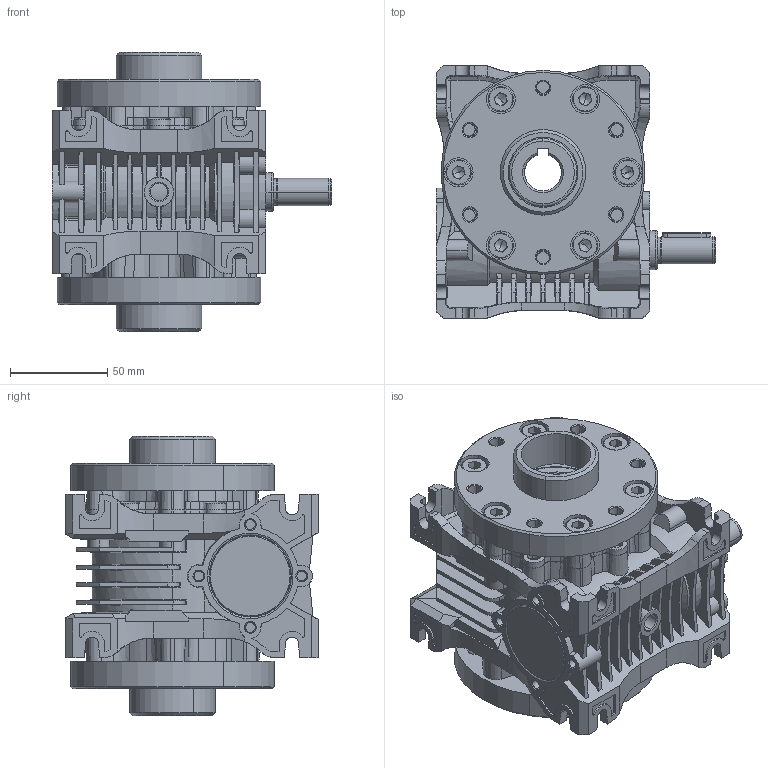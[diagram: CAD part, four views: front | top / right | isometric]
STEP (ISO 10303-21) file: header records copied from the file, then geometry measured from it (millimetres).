
FILE_DESCRIPTION (( 'STEP AP203' ), '1' );
FILE_NAME ('MRP-40_WBS_SO-1_3D.STEP', '2024-10-23T07:01:51', ( '' ), ( '' ), 'SwSTEP 2.0', 'SolidWorks 2022', '' );
FILE_SCHEMA (( 'CONFIG_CONTROL_DESIGN' ));
Length unit declared in the file: millimetre
Products named in the file (1): MRP-40_WBS_SO-1_3D
Bounding box: 144 x 130 x 144 mm (x, y, z)
Volume: 928869.1 mm3; surface area: 204420.1 mm2
Topology: 1 solids, 46 shells, 2310 faces, 6083 edges, 3912 vertices
Faces by surface type: plane 958, cone 758, cylinder 438, torus 84, bspline 72
Entity records: 75056 total; most frequent: CARTESIAN_POINT 18984, ORIENTED_EDGE 12074, DIRECTION 11526, EDGE_CURVE 6037, AXIS2_PLACEMENT_3D 4279, VERTEX_POINT 3912, VECTOR 2968, LINE 2968
